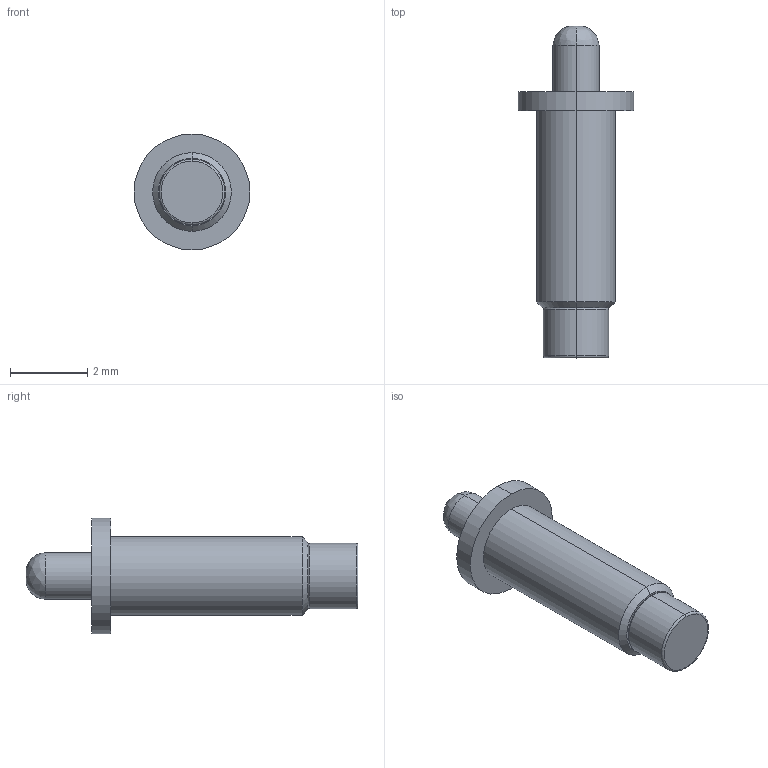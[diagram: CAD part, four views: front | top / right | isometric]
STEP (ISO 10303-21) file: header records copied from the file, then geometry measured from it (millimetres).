
FILE_DESCRIPTION((''),'2;1');
FILE_NAME('PRT0006','2023-05-26T15:31:54',('USER'),(''),'CREO PARAMETRIC BY PTC INC, 2020154','CREO PARAMETRIC BY PTC INC, 2020154','');
FILE_SCHEMA(('CONFIG_CONTROL_DESIGN'));
Length unit declared in the file: millimetre
Products named in the file (1): PRT0006
Bounding box: 3 x 8.6 x 3 mm (x, y, z)
Volume: 24.8 mm3; surface area: 63.7 mm2
Topology: 1 solids, 1 shells, 21 faces, 40 edges, 24 vertices
Faces by surface type: cylinder 8, plane 5, torus 4, bspline 2, cone 2
Entity records: 624 total; most frequent: CARTESIAN_POINT 139, DIRECTION 108, ORIENTED_EDGE 80, AXIS2_PLACEMENT_3D 49, EDGE_CURVE 40, CIRCLE 30, VERTEX_POINT 24, EDGE_LOOP 24
